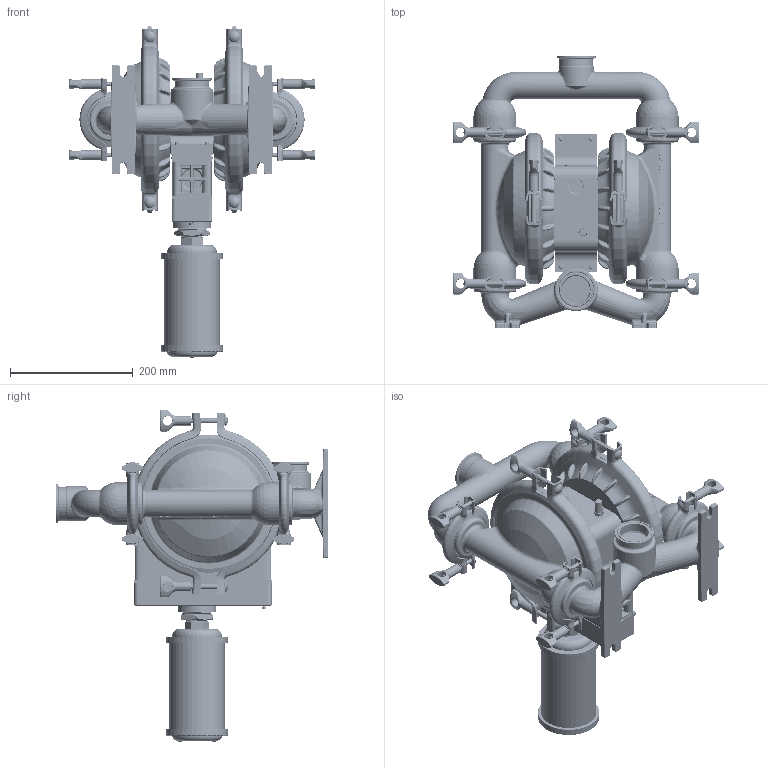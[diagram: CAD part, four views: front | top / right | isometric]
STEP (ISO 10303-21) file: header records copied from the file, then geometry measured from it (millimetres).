
FILE_DESCRIPTION((''),'2;1');
FILE_NAME('PS04_SS_FDA_TOP','2022-07-01T18:10:10',('11010273'),(''),'CREO PARAMETRIC BY PTC INC, 2022124','CREO PARAMETRIC BY PTC INC, 2022124','');
FILE_SCHEMA(('CONFIG_CONTROL_DESIGN'));
Length unit declared in the file: inch
Products named in the file (1): PS04_SS_FDA_TOP
Bounding box: 400.81 x 444.8 x 542.04 mm (x, y, z)
Volume: 12061823.7 mm3; surface area: 982191.2 mm2
Topology: 1 solids, 1 shells, 6870 faces, 18127 edges, 11382 vertices
Faces by surface type: plane 3689, bspline 1217, cylinder 987, torus 465, cone 311, sphere 113, extrusion 88
Entity records: 374700 total; most frequent: CARTESIAN_POINT 217424, ORIENTED_EDGE 36038, DIRECTION 27583, EDGE_CURVE 18019, VERTEX_POINT 11382, VECTOR 10017, LINE 9929, AXIS2_PLACEMENT_3D 8783
